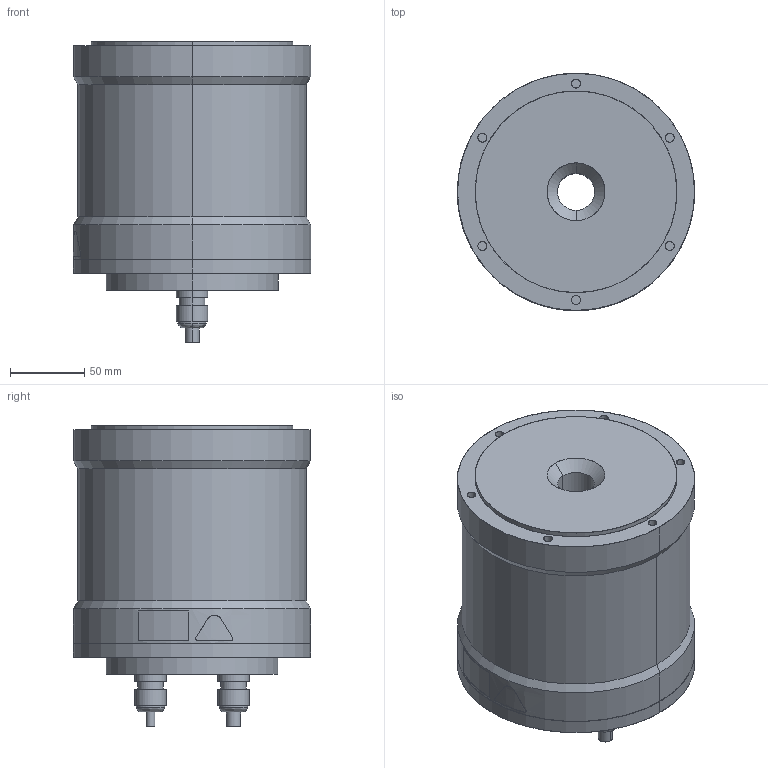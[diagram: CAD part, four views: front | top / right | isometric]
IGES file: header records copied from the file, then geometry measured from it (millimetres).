
Start section: SolidWorks IGES file using analytic representation for surfaces
Bounding box: 160.06 x 160 x 203.4 mm (x, y, z)
Surface area: 143249.8 mm2 (no closed solid volume)
Topology: 0 solids, 0 shells, 211 faces, 4654 edges, 4654 vertices
Faces by surface type: revolution 128, bspline 83
